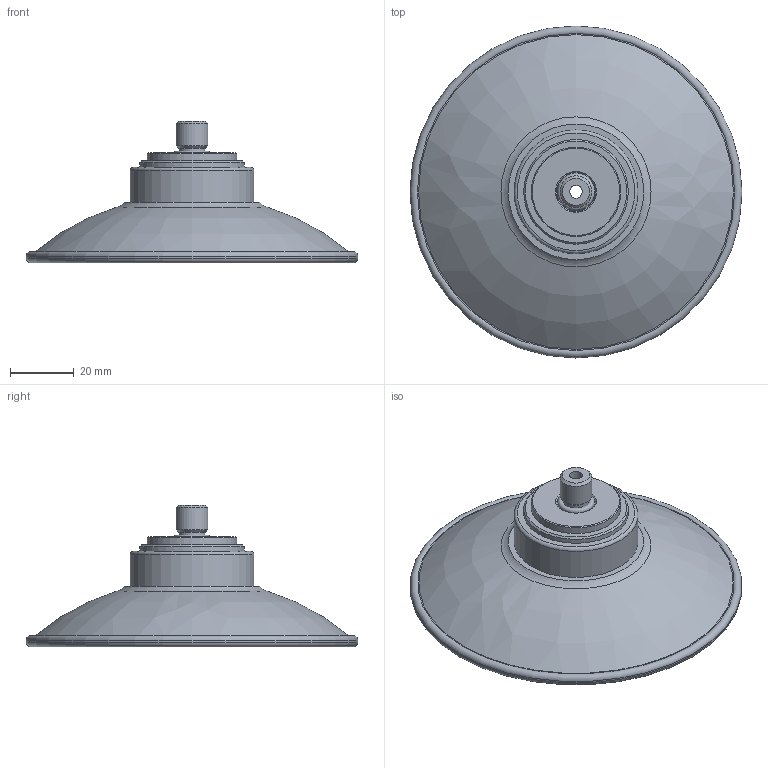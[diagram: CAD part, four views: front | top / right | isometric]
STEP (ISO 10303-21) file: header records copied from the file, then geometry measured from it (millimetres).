
FILE_DESCRIPTION( ( 'Unknown' ), '1' );
FILE_NAME( 'D:/弥龋覆(冠固急)/Smart Cup/寇何侩-唱荤魂TYPE/FCF100-M10M.stp', 'Unknown', ( 'Unknown' ), ( 'Unknown' ), 'PSStep 10.0', 'Unknown', ' ' );
FILE_SCHEMA( ( 'AUTOMOTIVE_DESIGN { 1 0 10303 214 1 1 1 1 }' ) );
Length unit declared in the file: millimetre
Products named in the file (4): Assem1; FCF100; VDF-FCF-M10M; M10M-oring
Bounding box: 104 x 104 x 44.43 mm (x, y, z)
Volume: 83709.1 mm3; surface area: 61349.1 mm2
Topology: 6 solids, 6 shells, 128 faces, 216 edges, 128 vertices
Faces by surface type: cylinder 44, plane 40, cone 26, torus 12, bspline 6
Full cylindrical faces by diameter (mm): 4 x2, 6.928 x2, 7.5 x2, 8 x2, 9.5 x2, 10 x2, 12.2 x2, 16 x4, 16.8 x8, 28 x2, 30.8 x4, 32.8 x6, 38.8 x2, 98 x2, 104 x2
Entity records: 1932 total; most frequent: CARTESIAN_POINT 275, DIRECTION 256, AXIS2_PLACEMENT_3D 128, EDGE_LOOP 126, ORIENTED_EDGE 126, FACE_OUTER_BOUND 93, STYLED_ITEM 64, PRESENTATION_STYLE_ASSIGNMENT 64
